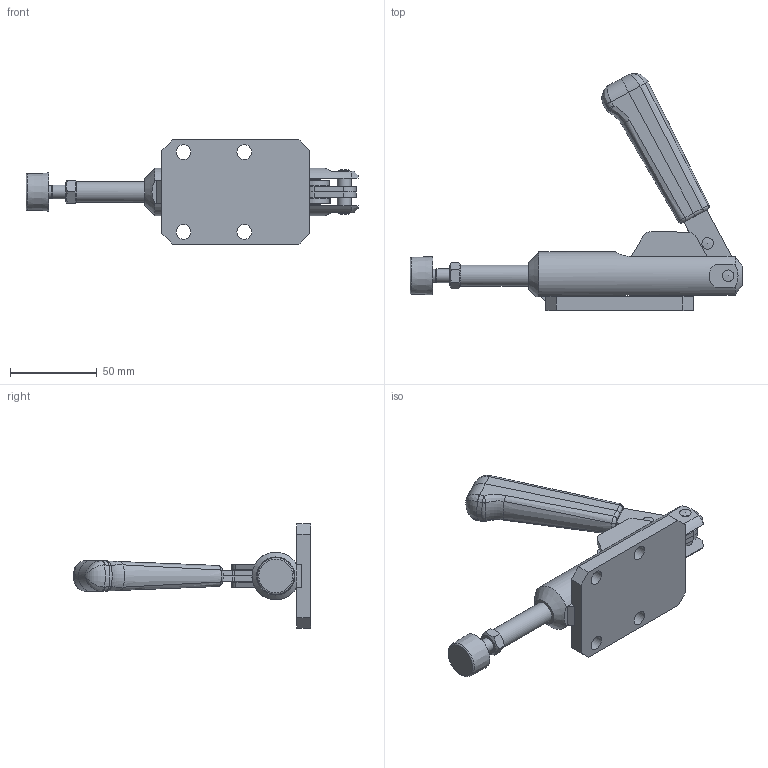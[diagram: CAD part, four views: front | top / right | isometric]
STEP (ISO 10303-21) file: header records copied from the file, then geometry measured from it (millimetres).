
FILE_DESCRIPTION(/* description */ (''),/* implementation_level */ '2;1');
FILE_NAME(/* name */ '/Users/eric/Desktop/Abco 2044 Push:Poussée.stp',/* time_stamp */ '2014-08-15T01:50:24+10:00',/* author */ (''),/* organization */ (''),/* preprocessor_version */ 'ST-DEVELOPER v14.6',/* originating_system */ '',/* authorisation */ '');
FILE_SCHEMA (('AUTOMOTIVE_DESIGN { 1 2 10303 214 1 1 1 1 }'));
Length unit declared in the file: centimetre
Products named in the file (1): 1234-K789
Bounding box: 191.3 x 136.57 x 60 mm (x, y, z)
Volume: 133847.4 mm3; surface area: 67006.4 mm2
Topology: 25 solids, 25 shells, 280 faces, 652 edges, 412 vertices
Faces by surface type: plane 119, cylinder 84, cone 36, bspline 24, sphere 9, torus 8
Full cylindrical faces by diameter (mm): 6 x22, 6.647 x2, 7.323 x1, 8 x12, 8.5 x4, 11.4 x2, 12 x4
Entity records: 8190 total; most frequent: CARTESIAN_POINT 2357, DIRECTION 1177, ORIENTED_EDGE 1088, EDGE_CURVE 544, AXIS2_PLACEMENT_3D 485, EDGE_LOOP 410, VERTEX_POINT 388, ADVANCED_FACE 280
